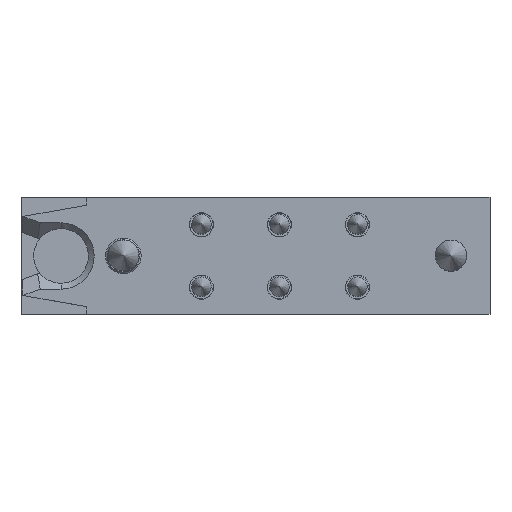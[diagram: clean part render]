
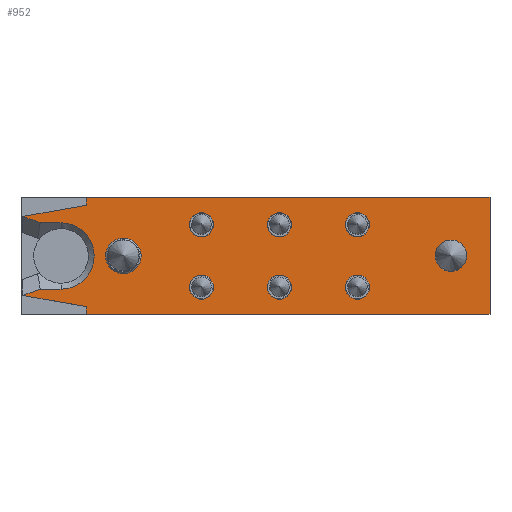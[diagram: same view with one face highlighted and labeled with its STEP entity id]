
A CAD part, top view. The second image highlights one B-rep face of the part: STEP entity #952.
In plain terms, the highlighted planar face has unit normal (0, 0, 1) as drawn and (0, 0, -1) by its records, which use the part's own axes.
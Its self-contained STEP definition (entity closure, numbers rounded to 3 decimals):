
#139=CIRCLE('',#1079,3.1);
#140=CIRCLE('',#1080,3.1);
#141=CIRCLE('',#1081,3.1);
#142=CIRCLE('',#1082,3.1);
#143=CIRCLE('',#1083,3.1);
#144=CIRCLE('',#1084,3.1);
#145=CIRCLE('',#1085,4.55);
#146=CIRCLE('',#1086,4.);
#147=CIRCLE('',#1087,8.5);
#195=ORIENTED_EDGE('',*,*,#399,.T.);
#196=ORIENTED_EDGE('',*,*,#400,.T.);
#197=ORIENTED_EDGE('',*,*,#401,.T.);
#198=ORIENTED_EDGE('',*,*,#402,.T.);
#199=ORIENTED_EDGE('',*,*,#403,.T.);
#200=ORIENTED_EDGE('',*,*,#404,.T.);
#201=ORIENTED_EDGE('',*,*,#405,.T.);
#202=ORIENTED_EDGE('',*,*,#406,.T.);
#203=ORIENTED_EDGE('',*,*,#407,.F.);
#204=ORIENTED_EDGE('',*,*,#408,.T.);
#205=ORIENTED_EDGE('',*,*,#409,.T.);
#206=ORIENTED_EDGE('',*,*,#410,.T.);
#207=ORIENTED_EDGE('',*,*,#411,.T.);
#208=ORIENTED_EDGE('',*,*,#412,.T.);
#209=ORIENTED_EDGE('',*,*,#413,.T.);
#210=ORIENTED_EDGE('',*,*,#414,.T.);
#211=ORIENTED_EDGE('',*,*,#415,.F.);
#212=ORIENTED_EDGE('',*,*,#416,.F.);
#213=ORIENTED_EDGE('',*,*,#417,.F.);
#214=ORIENTED_EDGE('',*,*,#418,.F.);
#399=EDGE_CURVE('',#501,#501,#139,.T.);
#400=EDGE_CURVE('',#502,#502,#140,.T.);
#401=EDGE_CURVE('',#503,#503,#141,.T.);
#402=EDGE_CURVE('',#504,#504,#142,.T.);
#403=EDGE_CURVE('',#505,#505,#143,.T.);
#404=EDGE_CURVE('',#506,#506,#144,.T.);
#405=EDGE_CURVE('',#507,#507,#145,.T.);
#406=EDGE_CURVE('',#508,#508,#146,.T.);
#407=EDGE_CURVE('',#509,#510,#586,.T.);
#408=EDGE_CURVE('',#509,#511,#587,.T.);
#409=EDGE_CURVE('',#511,#512,#588,.T.);
#410=EDGE_CURVE('',#512,#513,#589,.T.);
#411=EDGE_CURVE('',#513,#514,#590,.T.);
#412=EDGE_CURVE('',#514,#515,#147,.T.);
#413=EDGE_CURVE('',#515,#516,#591,.T.);
#414=EDGE_CURVE('',#516,#517,#592,.T.);
#415=EDGE_CURVE('',#518,#517,#593,.T.);
#416=EDGE_CURVE('',#519,#518,#594,.T.);
#417=EDGE_CURVE('',#520,#519,#595,.T.);
#418=EDGE_CURVE('',#510,#520,#596,.T.);
#501=VERTEX_POINT('',#1549);
#502=VERTEX_POINT('',#1551);
#503=VERTEX_POINT('',#1553);
#504=VERTEX_POINT('',#1555);
#505=VERTEX_POINT('',#1557);
#506=VERTEX_POINT('',#1559);
#507=VERTEX_POINT('',#1561);
#508=VERTEX_POINT('',#1563);
#509=VERTEX_POINT('',#1565);
#510=VERTEX_POINT('',#1566);
#511=VERTEX_POINT('',#1568);
#512=VERTEX_POINT('',#1570);
#513=VERTEX_POINT('',#1572);
#514=VERTEX_POINT('',#1574);
#515=VERTEX_POINT('',#1576);
#516=VERTEX_POINT('',#1578);
#517=VERTEX_POINT('',#1580);
#518=VERTEX_POINT('',#1582);
#519=VERTEX_POINT('',#1584);
#520=VERTEX_POINT('',#1586);
#586=LINE('',#1564,#636);
#587=LINE('',#1567,#637);
#588=LINE('',#1569,#638);
#589=LINE('',#1571,#639);
#590=LINE('',#1573,#640);
#591=LINE('',#1577,#641);
#592=LINE('',#1579,#642);
#593=LINE('',#1581,#643);
#594=LINE('',#1583,#644);
#595=LINE('',#1585,#645);
#596=LINE('',#1587,#646);
#636=VECTOR('',#1239,1000.);
#637=VECTOR('',#1240,1000.);
#638=VECTOR('',#1241,1000.);
#639=VECTOR('',#1242,1000.);
#640=VECTOR('',#1243,1000.);
#641=VECTOR('',#1246,1000.);
#642=VECTOR('',#1247,1000.);
#643=VECTOR('',#1248,1000.);
#644=VECTOR('',#1249,1000.);
#645=VECTOR('',#1250,1000.);
#646=VECTOR('',#1251,1000.);
#683=EDGE_LOOP('',(#195));
#684=EDGE_LOOP('',(#196));
#685=EDGE_LOOP('',(#197));
#686=EDGE_LOOP('',(#198));
#687=EDGE_LOOP('',(#199));
#688=EDGE_LOOP('',(#200));
#689=EDGE_LOOP('',(#201));
#690=EDGE_LOOP('',(#202));
#691=EDGE_LOOP('',(#203,#204,#205,#206,#207,#208,#209,#210,#211,#212,#213,
#214));
#802=FACE_BOUND('',#683,.T.);
#803=FACE_BOUND('',#684,.T.);
#804=FACE_BOUND('',#685,.T.);
#805=FACE_BOUND('',#686,.T.);
#806=FACE_BOUND('',#687,.T.);
#807=FACE_BOUND('',#688,.T.);
#808=FACE_BOUND('',#689,.T.);
#809=FACE_BOUND('',#690,.T.);
#810=FACE_BOUND('',#691,.T.);
#923=PLANE('',#1078);
#952=ADVANCED_FACE('',(#802,#803,#804,#805,#806,#807,#808,#809,#810),#923,
 .F.);
#1078=AXIS2_PLACEMENT_3D('',#1547,#1221,#1222);
#1079=AXIS2_PLACEMENT_3D('',#1548,#1223,#1224);
#1080=AXIS2_PLACEMENT_3D('',#1550,#1225,#1226);
#1081=AXIS2_PLACEMENT_3D('',#1552,#1227,#1228);
#1082=AXIS2_PLACEMENT_3D('',#1554,#1229,#1230);
#1083=AXIS2_PLACEMENT_3D('',#1556,#1231,#1232);
#1084=AXIS2_PLACEMENT_3D('',#1558,#1233,#1234);
#1085=AXIS2_PLACEMENT_3D('',#1560,#1235,#1236);
#1086=AXIS2_PLACEMENT_3D('',#1562,#1237,#1238);
#1087=AXIS2_PLACEMENT_3D('',#1575,#1244,#1245);
#1221=DIRECTION('',(0.,0.,1.));
#1222=DIRECTION('',(1.,0.,0.));
#1223=DIRECTION('',(0.,0.,1.));
#1224=DIRECTION('',(1.,0.,0.));
#1225=DIRECTION('',(0.,0.,1.));
#1226=DIRECTION('',(1.,0.,0.));
#1227=DIRECTION('',(0.,0.,1.));
#1228=DIRECTION('',(1.,0.,0.));
#1229=DIRECTION('',(0.,0.,1.));
#1230=DIRECTION('',(1.,0.,0.));
#1231=DIRECTION('',(0.,0.,1.));
#1232=DIRECTION('',(1.,0.,0.));
#1233=DIRECTION('',(0.,0.,1.));
#1234=DIRECTION('',(1.,0.,0.));
#1235=DIRECTION('',(0.,0.,1.));
#1236=DIRECTION('',(1.,0.,0.));
#1237=DIRECTION('',(0.,0.,1.));
#1238=DIRECTION('',(1.,0.,0.));
#1239=DIRECTION('',(-1.,0.,0.));
#1240=DIRECTION('',(0.,-1.,0.));
#1241=DIRECTION('',(0.985,-0.174,0.));
#1242=DIRECTION('',(-0.94,-0.342,0.));
#1243=DIRECTION('',(-1.,0.,0.));
#1244=DIRECTION('',(0.,0.,1.));
#1245=DIRECTION('',(1.,0.,0.));
#1246=DIRECTION('',(1.,0.,0.));
#1247=DIRECTION('',(0.94,-0.342,0.));
#1248=DIRECTION('',(0.985,0.174,0.));
#1249=DIRECTION('',(0.,1.,0.));
#1250=DIRECTION('',(1.,0.,0.));
#1251=DIRECTION('',(0.,-1.,0.));
#1547=CARTESIAN_POINT('',(-60.,15.,-5.));
#1548=CARTESIAN_POINT('',(-26.,8.,-5.));
#1549=CARTESIAN_POINT('',(-22.9,8.,-5.));
#1550=CARTESIAN_POINT('',(-26.,-8.,-5.));
#1551=CARTESIAN_POINT('',(-22.9,-8.,-5.));
#1552=CARTESIAN_POINT('',(-6.,8.,-5.));
#1553=CARTESIAN_POINT('',(-2.9,8.,-5.));
#1554=CARTESIAN_POINT('',(-6.,-8.,-5.));
#1555=CARTESIAN_POINT('',(-2.9,-8.,-5.));
#1556=CARTESIAN_POINT('',(14.,8.,-5.));
#1557=CARTESIAN_POINT('',(17.1,8.,-5.));
#1558=CARTESIAN_POINT('',(14.,-8.,-5.));
#1559=CARTESIAN_POINT('',(17.1,-8.,-5.));
#1560=CARTESIAN_POINT('',(34.,0.,-5.));
#1561=CARTESIAN_POINT('',(38.55,0.,-5.));
#1562=CARTESIAN_POINT('',(-50.,0.,-5.));
#1563=CARTESIAN_POINT('',(-46.,0.,-5.));
#1564=CARTESIAN_POINT('',(60.,15.,-5.));
#1565=CARTESIAN_POINT('',(43.5,15.,-5.));
#1566=CARTESIAN_POINT('',(-60.,15.,-5.));
#1567=CARTESIAN_POINT('',(43.5,15.,-5.));
#1568=CARTESIAN_POINT('',(43.5,13.,-5.));
#1569=CARTESIAN_POINT('',(-57.221,30.76,-5.));
#1570=CARTESIAN_POINT('',(59.78,10.129,-5.));
#1571=CARTESIAN_POINT('',(54.649,8.262,-5.));
#1572=CARTESIAN_POINT('',(55.304,8.5,-5.));
#1573=CARTESIAN_POINT('',(50.,8.5,-5.));
#1574=CARTESIAN_POINT('',(50.,8.5,-5.));
#1575=CARTESIAN_POINT('',(50.,0.,-5.));
#1576=CARTESIAN_POINT('',(50.,-8.5,-5.));
#1577=CARTESIAN_POINT('',(56.,-8.5,-5.));
#1578=CARTESIAN_POINT('',(55.304,-8.5,-5.));
#1579=CARTESIAN_POINT('',(58.649,-9.718,-5.));
#1580=CARTESIAN_POINT('',(59.78,-10.129,-5.));
#1581=CARTESIAN_POINT('',(-52.091,-29.855,-5.));
#1582=CARTESIAN_POINT('',(43.5,-13.,-5.));
#1583=CARTESIAN_POINT('',(43.5,15.,-5.));
#1584=CARTESIAN_POINT('',(43.5,-15.,-5.));
#1585=CARTESIAN_POINT('',(-60.,-15.,-5.));
#1586=CARTESIAN_POINT('',(-60.,-15.,-5.));
#1587=CARTESIAN_POINT('',(-60.,15.,-5.));
